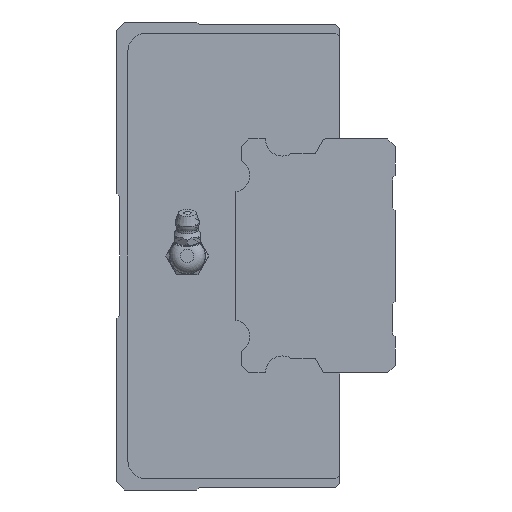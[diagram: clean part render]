
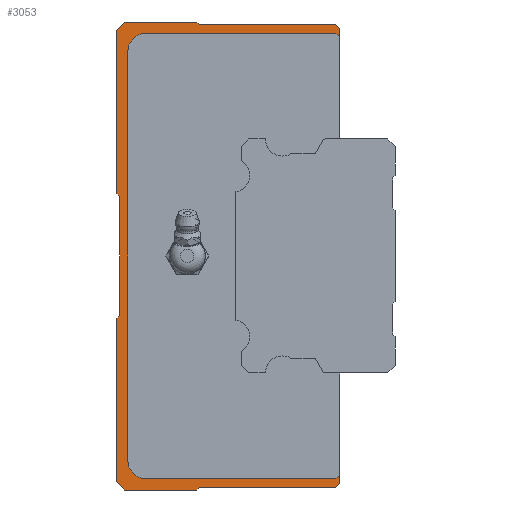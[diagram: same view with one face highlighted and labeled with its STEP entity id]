
A CAD part, left-side view. The second image highlights one B-rep face of the part: STEP entity #3053.
In plain terms, the highlighted planar face has unit normal (-1, 0, 0).
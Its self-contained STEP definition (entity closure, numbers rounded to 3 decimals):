
#199=CIRCLE('',#3382,5.);
#200=CIRCLE('',#3383,5.);
#773=ORIENTED_EDGE('',*,*,#1408,.F.);
#774=ORIENTED_EDGE('',*,*,#1272,.F.);
#775=ORIENTED_EDGE('',*,*,#1366,.F.);
#776=ORIENTED_EDGE('',*,*,#1363,.F.);
#777=ORIENTED_EDGE('',*,*,#1360,.F.);
#778=ORIENTED_EDGE('',*,*,#1357,.F.);
#779=ORIENTED_EDGE('',*,*,#1353,.F.);
#780=ORIENTED_EDGE('',*,*,#1399,.F.);
#781=ORIENTED_EDGE('',*,*,#1394,.F.);
#782=ORIENTED_EDGE('',*,*,#1391,.F.);
#783=ORIENTED_EDGE('',*,*,#1388,.F.);
#784=ORIENTED_EDGE('',*,*,#1385,.F.);
#785=ORIENTED_EDGE('',*,*,#1380,.F.);
#786=ORIENTED_EDGE('',*,*,#1377,.F.);
#787=ORIENTED_EDGE('',*,*,#1374,.F.);
#788=ORIENTED_EDGE('',*,*,#1371,.F.);
#789=ORIENTED_EDGE('',*,*,#1368,.F.);
#790=ORIENTED_EDGE('',*,*,#1278,.F.);
#791=ORIENTED_EDGE('',*,*,#1409,.F.);
#792=ORIENTED_EDGE('',*,*,#1410,.F.);
#793=ORIENTED_EDGE('',*,*,#1411,.F.);
#794=ORIENTED_EDGE('',*,*,#1412,.F.);
#795=ORIENTED_EDGE('',*,*,#1413,.F.);
#796=ORIENTED_EDGE('',*,*,#1414,.F.);
#1272=EDGE_CURVE('',#1645,#1646,#1923,.T.);
#1278=EDGE_CURVE('',#1651,#1652,#1929,.T.);
#1353=EDGE_CURVE('',#1722,#1723,#1970,.T.);
#1357=EDGE_CURVE('',#1723,#1726,#1974,.T.);
#1360=EDGE_CURVE('',#1726,#1728,#1977,.T.);
#1363=EDGE_CURVE('',#1728,#1730,#1980,.T.);
#1366=EDGE_CURVE('',#1730,#1645,#1983,.T.);
#1368=EDGE_CURVE('',#1652,#1732,#1985,.T.);
#1371=EDGE_CURVE('',#1732,#1734,#1988,.T.);
#1374=EDGE_CURVE('',#1734,#1736,#1991,.T.);
#1377=EDGE_CURVE('',#1736,#1738,#1994,.T.);
#1380=EDGE_CURVE('',#1738,#1740,#1997,.T.);
#1385=EDGE_CURVE('',#1740,#1744,#2000,.T.);
#1388=EDGE_CURVE('',#1744,#1746,#2003,.T.);
#1391=EDGE_CURVE('',#1746,#1748,#2006,.T.);
#1394=EDGE_CURVE('',#1748,#1750,#2009,.T.);
#1399=EDGE_CURVE('',#1750,#1722,#2012,.T.);
#1408=EDGE_CURVE('',#1646,#1760,#2019,.T.);
#1409=EDGE_CURVE('',#1761,#1651,#2020,.T.);
#1410=EDGE_CURVE('',#1762,#1761,#2021,.T.);
#1411=EDGE_CURVE('',#1763,#1762,#199,.F.);
#1412=EDGE_CURVE('',#1764,#1763,#2022,.T.);
#1413=EDGE_CURVE('',#1765,#1764,#200,.F.);
#1414=EDGE_CURVE('',#1760,#1765,#2023,.T.);
#1645=VERTEX_POINT('',#4768);
#1646=VERTEX_POINT('',#4770);
#1651=VERTEX_POINT('',#4781);
#1652=VERTEX_POINT('',#4783);
#1722=VERTEX_POINT('',#4931);
#1723=VERTEX_POINT('',#4932);
#1726=VERTEX_POINT('',#4940);
#1728=VERTEX_POINT('',#4946);
#1730=VERTEX_POINT('',#4952);
#1732=VERTEX_POINT('',#4961);
#1734=VERTEX_POINT('',#4967);
#1736=VERTEX_POINT('',#4973);
#1738=VERTEX_POINT('',#4979);
#1740=VERTEX_POINT('',#4985);
#1744=VERTEX_POINT('',#4995);
#1746=VERTEX_POINT('',#5001);
#1748=VERTEX_POINT('',#5007);
#1750=VERTEX_POINT('',#5013);
#1760=VERTEX_POINT('',#5040);
#1761=VERTEX_POINT('',#5042);
#1762=VERTEX_POINT('',#5044);
#1763=VERTEX_POINT('',#5046);
#1764=VERTEX_POINT('',#5048);
#1765=VERTEX_POINT('',#5050);
#1923=LINE('',#4769,#2165);
#1929=LINE('',#4782,#2171);
#1970=LINE('',#4930,#2212);
#1974=LINE('',#4939,#2216);
#1977=LINE('',#4945,#2219);
#1980=LINE('',#4951,#2222);
#1983=LINE('',#4957,#2225);
#1985=LINE('',#4960,#2227);
#1988=LINE('',#4966,#2230);
#1991=LINE('',#4972,#2233);
#1994=LINE('',#4978,#2236);
#1997=LINE('',#4984,#2239);
#2000=LINE('',#4994,#2242);
#2003=LINE('',#5000,#2245);
#2006=LINE('',#5006,#2248);
#2009=LINE('',#5012,#2251);
#2012=LINE('',#5022,#2254);
#2019=LINE('',#5039,#2261);
#2020=LINE('',#5041,#2262);
#2021=LINE('',#5043,#2263);
#2022=LINE('',#5047,#2264);
#2023=LINE('',#5051,#2265);
#2165=VECTOR('',#3879,1000.);
#2171=VECTOR('',#3887,1000.);
#2212=VECTOR('',#4002,1000.);
#2216=VECTOR('',#4008,1000.);
#2219=VECTOR('',#4013,1000.);
#2222=VECTOR('',#4018,1000.);
#2225=VECTOR('',#4023,1000.);
#2227=VECTOR('',#4027,1000.);
#2230=VECTOR('',#4032,1000.);
#2233=VECTOR('',#4037,1000.);
#2236=VECTOR('',#4042,1000.);
#2239=VECTOR('',#4047,1000.);
#2242=VECTOR('',#4056,1000.);
#2245=VECTOR('',#4061,1000.);
#2248=VECTOR('',#4066,1000.);
#2251=VECTOR('',#4071,1000.);
#2254=VECTOR('',#4080,1000.);
#2261=VECTOR('',#4095,1000.);
#2262=VECTOR('',#4096,1000.);
#2263=VECTOR('',#4097,1000.);
#2264=VECTOR('',#4100,1000.);
#2265=VECTOR('',#4103,1000.);
#2454=EDGE_LOOP('',(#773,#774,#775,#776,#777,#778,#779,#780,#781,#782,#783,
#784,#785,#786,#787,#788,#789,#790,#791,#792,#793,#794,#795,#796));
#2725=FACE_BOUND('',#2454,.T.);
#2919=PLANE('',#3381);
#3053=ADVANCED_FACE('',(#2725),#2919,.F.);
#3381=AXIS2_PLACEMENT_3D('',#5038,#4093,#4094);
#3382=AXIS2_PLACEMENT_3D('',#5045,#4098,#4099);
#3383=AXIS2_PLACEMENT_3D('',#5049,#4101,#4102);
#3879=DIRECTION('',(0.,0.,-1.));
#3887=DIRECTION('',(0.,0.,-1.));
#4002=DIRECTION('',(0.,-0.707,0.707));
#4008=DIRECTION('',(0.,-1.,0.));
#4013=DIRECTION('',(0.,-0.707,-0.707));
#4018=DIRECTION('',(0.,-1.,0.));
#4023=DIRECTION('',(0.,-0.707,-0.707));
#4027=DIRECTION('',(0.,0.707,-0.707));
#4032=DIRECTION('',(0.,1.,0.));
#4037=DIRECTION('',(0.,0.707,-0.707));
#4042=DIRECTION('',(0.,1.,0.));
#4047=DIRECTION('',(0.,0.707,0.707));
#4056=DIRECTION('',(0.,0.,1.));
#4061=DIRECTION('',(0.,-0.707,0.707));
#4066=DIRECTION('',(0.,0.,1.));
#4071=DIRECTION('',(0.,0.707,0.707));
#4080=DIRECTION('',(0.,0.,1.));
#4093=DIRECTION('',(1.,0.,0.));
#4094=DIRECTION('',(0.,0.,-1.));
#4095=DIRECTION('',(0.,0.707,0.707));
#4096=DIRECTION('',(0.,-0.707,0.707));
#4097=DIRECTION('',(0.,-1.,0.));
#4098=DIRECTION('',(1.,0.,0.));
#4099=DIRECTION('',(0.,0.,-1.));
#4100=DIRECTION('',(0.,0.,-1.));
#4101=DIRECTION('',(1.,0.,0.));
#4102=DIRECTION('',(0.,0.,-1.));
#4103=DIRECTION('',(0.,1.,0.));
#4768=CARTESIAN_POINT('',(-71.8,0.,61.3));
#4769=CARTESIAN_POINT('',(-71.8,0.,61.3));
#4770=CARTESIAN_POINT('',(-71.8,0.,59.));
#4781=CARTESIAN_POINT('',(-71.8,0.,-59.));
#4782=CARTESIAN_POINT('',(-71.8,0.,61.3));
#4783=CARTESIAN_POINT('',(-71.8,0.,-61.3));
#4930=CARTESIAN_POINT('',(-71.8,60.,60.8));
#4931=CARTESIAN_POINT('',(-71.8,60.,60.8));
#4932=CARTESIAN_POINT('',(-71.8,57.8,63.));
#4939=CARTESIAN_POINT('',(-71.8,57.8,63.));
#4940=CARTESIAN_POINT('',(-71.8,38.4,63.));
#4945=CARTESIAN_POINT('',(-71.8,38.4,63.));
#4946=CARTESIAN_POINT('',(-71.8,37.8,62.4));
#4951=CARTESIAN_POINT('',(-71.8,37.8,62.4));
#4952=CARTESIAN_POINT('',(-71.8,1.1,62.4));
#4957=CARTESIAN_POINT('',(-71.8,1.1,62.4));
#4960=CARTESIAN_POINT('',(-71.8,0.,-61.3));
#4961=CARTESIAN_POINT('',(-71.8,1.1,-62.4));
#4966=CARTESIAN_POINT('',(-71.8,1.1,-62.4));
#4967=CARTESIAN_POINT('',(-71.8,37.8,-62.4));
#4972=CARTESIAN_POINT('',(-71.8,37.8,-62.4));
#4973=CARTESIAN_POINT('',(-71.8,38.4,-63.));
#4978=CARTESIAN_POINT('',(-71.8,38.4,-63.));
#4979=CARTESIAN_POINT('',(-71.8,57.8,-63.));
#4984=CARTESIAN_POINT('',(-71.8,57.8,-63.));
#4985=CARTESIAN_POINT('',(-71.8,60.,-60.8));
#4994=CARTESIAN_POINT('',(-71.8,60.,-60.8));
#4995=CARTESIAN_POINT('',(-71.8,60.,-16.8));
#5000=CARTESIAN_POINT('',(-71.8,60.,-16.8));
#5001=CARTESIAN_POINT('',(-71.8,59.2,-16.));
#5006=CARTESIAN_POINT('',(-71.8,59.2,-16.));
#5007=CARTESIAN_POINT('',(-71.8,59.2,16.));
#5012=CARTESIAN_POINT('',(-71.8,59.2,16.));
#5013=CARTESIAN_POINT('',(-71.8,60.,16.8));
#5022=CARTESIAN_POINT('',(-71.8,60.,16.8));
#5038=CARTESIAN_POINT('',(-71.8,0.,0.));
#5039=CARTESIAN_POINT('',(-71.8,-29.5,29.5));
#5040=CARTESIAN_POINT('',(-71.8,1.,60.));
#5041=CARTESIAN_POINT('',(-71.8,-29.5,-29.5));
#5042=CARTESIAN_POINT('',(-71.8,1.,-60.));
#5043=CARTESIAN_POINT('',(-71.8,0.,-60.));
#5044=CARTESIAN_POINT('',(-71.8,52.,-60.));
#5045=CARTESIAN_POINT('',(-71.8,52.,-55.));
#5046=CARTESIAN_POINT('',(-71.8,57.,-55.));
#5047=CARTESIAN_POINT('',(-71.8,57.,0.));
#5048=CARTESIAN_POINT('',(-71.8,57.,55.));
#5049=CARTESIAN_POINT('',(-71.8,52.,55.));
#5050=CARTESIAN_POINT('',(-71.8,52.,60.));
#5051=CARTESIAN_POINT('',(-71.8,0.,60.));
